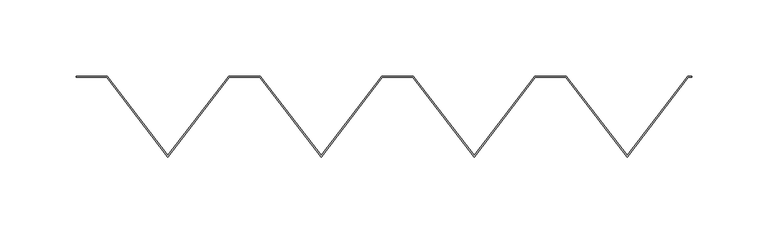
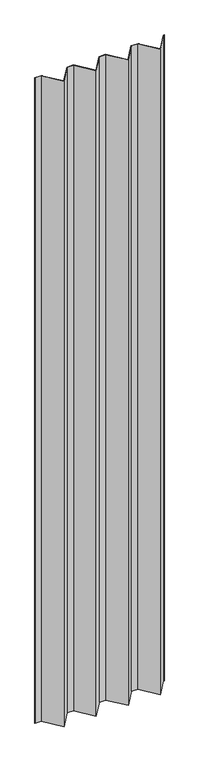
"""IFC4 building model written with IfcOpenShell, lengths in millimetres: plate geometry, HIANSA - H20.F09.008-CHAPA PERFILADA FACHADA VERTICAL - MT53MA8 - Panel de Muro Cortina : -."""

from ifc_helpers import new_model, si_unit, origin, origin_with_axes, place, context, project, spatial, polyline, outline, extrude, source, transform, mapped, element, save


def plate_b46e66bf(model_context):
    return source(origin(), model_context, "Body", "SweptSolid", [
        extrude(outline(polyline([(201.4030256, 0.0), (203.9999998, 0.0), (203.9999998, -0.8), (201.7968678, -0.8), (161.5476442, -53.1067873), (121.2984206, -0.8), (101.2984206, -0.8), (61.049197, -53.1067873), (20.7999734, -0.8), (0.7999734, -0.8), (-39.4492502, -53.1067873), (-79.6984738, -0.8), (-99.6984738, -0.8), (-139.9476974, -53.1067873), (-180.196921, -0.8), (-200.196921, -0.8), (-200.196921, 0.0), (-179.8030787, 0.0), (-139.9476974, -51.7949608), (-100.092316, 0.0), (-79.3046315, 0.0), (-39.4492502, -51.7949608), (0.4061312, 0.0), (21.1938156, 0.0), (61.049197, -51.7949608), (100.9045784, 0.0), (121.6922628, 0.0), (161.5476442, -51.7949608), (201.4030256, 0.0)])), origin_with_axes(), (0.0, 0.0, 1.0), 2128.0),
    ])


if __name__ == "__main__":
    model = new_model("IFC4")
    model_context = context("Model", 3, world=origin())
    ifc_project = project(units=[si_unit("LENGTHUNIT", "METRE", prefix="MILLI")], contexts=[model_context])
    site = spatial("IfcSite", under=ifc_project)
    building = spatial("IfcBuilding", under=site)
    placement = place(None, origin())
    plate_shape = plate_b46e66bf(model_context)
    element("IfcPlate", 1, ObjectType="HIANSA - H20.F09.008-CHAPA PERFILADA FACHADA VERTICAL - MT53MA8 - Panel de Muro Cortina : -", at=placement, inside=building, context=model_context, shape_type="MappedRepresentation", body=[
        mapped(plate_shape, transform((0.0, 0.0, 0.0), x_axis=(1.0, 0.0, 0.0), y_axis=(0.0, 1.0, 0.0), z_axis=(0.0, 0.0, 1.0))),
    ])
    save(model, "model.ifc")
